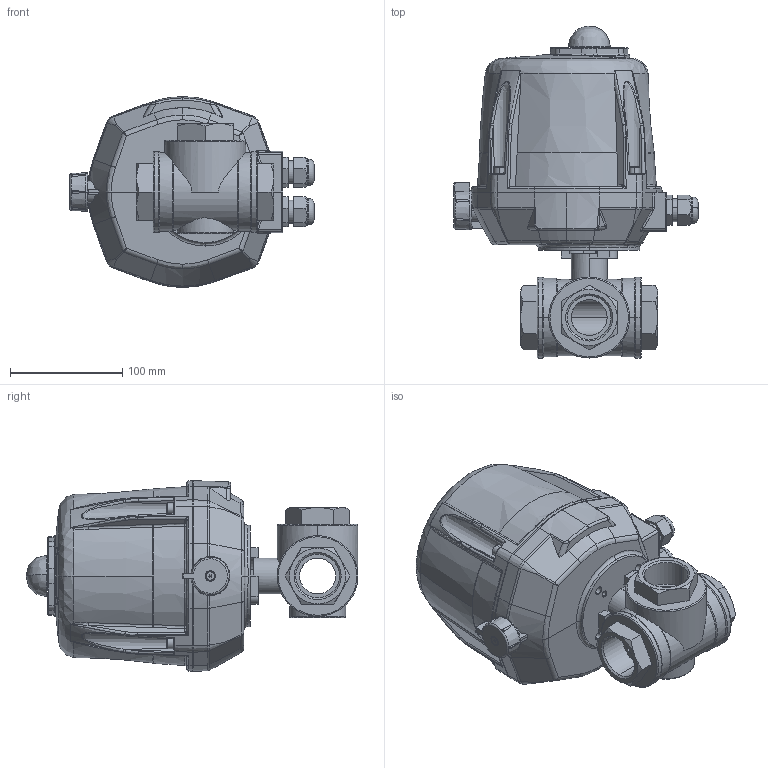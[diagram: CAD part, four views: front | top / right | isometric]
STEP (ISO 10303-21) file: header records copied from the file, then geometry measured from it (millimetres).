
FILE_DESCRIPTION (( 'STEP AP214' ), '1' );
FILE_NAME ('A35 DN32 + VR25_45_75.STEP', '2012-04-20T13:46:48', ( '' ), ( '' ), 'SwSTEP 2.0', 'SolidWorks 2011', '' );
FILE_SCHEMA (( 'AUTOMOTIVE_DESIGN' ));
Length unit declared in the file: millimetre
Products named in the file (13): VR25-45-75; Cross FH Tapping 7976_DIN_Tapping screw DIN 7982-ST4.2x19-C-H-N; Socket Head Cap Screw_DIN_DIN 912 M6 x 30 --- 30N; Plain Washer Grade A_DIN_Washer DIN 125 - A 5.3; VR25-45-75 Dop 4 - standindicatie; VR25-45-75 Topplaat standindicatie; VR25-45-75 Afdekkap; socket csink head cap screw 10642_din_ISO 10642 - M4 x 12 --- 12N; VR25-45-75 Dop 5 - declutch; Warteldoorvoer M20; VR25-45-75 Aandrijving; Ballvalve A35-DN32 G1 1_4; A35 DN32 + VR25_45_75
Assembly tree (22 placements, depth 3):
  A35 DN32 + VR25_45_75
    Ballvalve A35-DN32 G1 1_4
    VR25-45-75
      Cross FH Tapping 7976_DIN_Tapping screw DIN 7982-ST4.2x19-C-H-N  x4
      VR25-45-75 Topplaat standindicatie
      Plain Washer Grade A_DIN_Washer DIN 125 - A 5.3  x4
      VR25-45-75 Dop 5 - declutch
      Socket Head Cap Screw_DIN_DIN 912 M6 x 30 --- 30N  x4
      VR25-45-75 Afdekkap
      Warteldoorvoer M20  x2
      socket csink head cap screw 10642_din_ISO 10642 - M4 x 12 --- 12N
      VR25-45-75 Dop 4 - standindicatie
      VR25-45-75 Aandrijving
Bounding box: 217.5 x 295.9 x 170 mm (x, y, z)
Volume: 1929435.8 mm3; surface area: 356814.7 mm2
Topology: 21 solids, 21 shells, 1683 faces, 4179 edges, 2563 vertices
Faces by surface type: plane 595, bspline 471, cylinder 368, cone 185, torus 59, sphere 5
Entity records: 119700 total; most frequent: CARTESIAN_POINT 85545, ORIENTED_EDGE 7264, DIRECTION 5111, EDGE_CURVE 3632, VERTEX_POINT 2267, AXIS2_PLACEMENT_3D 1875, EDGE_LOOP 1603, FACE_OUTER_BOUND 1472
